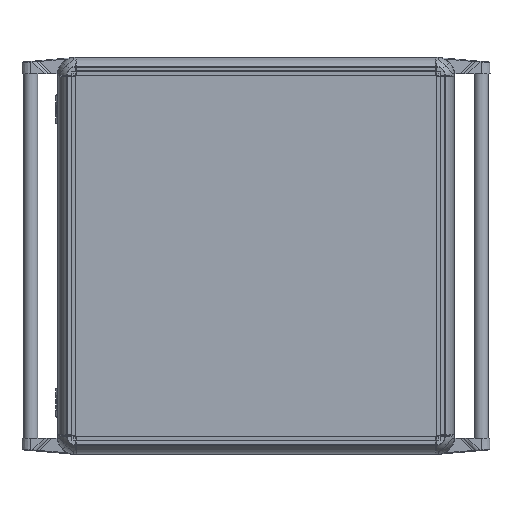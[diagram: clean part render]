
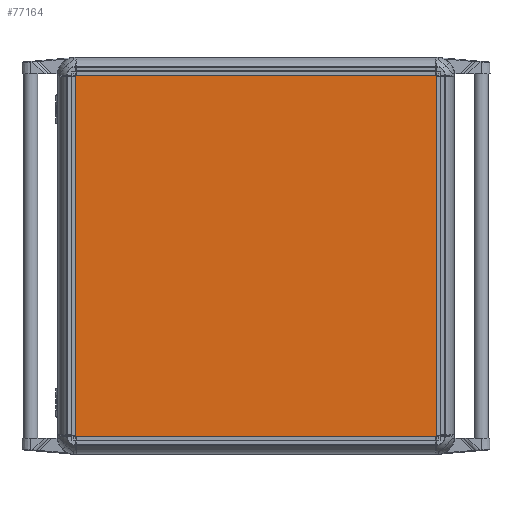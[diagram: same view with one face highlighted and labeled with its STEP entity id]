
A CAD part, top view. The second image highlights one B-rep face of the part: STEP entity #77164.
In plain terms, the highlighted planar face has unit normal (0, 0, 1).
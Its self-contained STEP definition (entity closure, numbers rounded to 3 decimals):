
#11866 = DIRECTION ( 'NONE',  ( 1., 0., 0. ) ) ;
#16171 = ORIENTED_EDGE ( 'NONE', *, *, #114428, .T. ) ;
#19561 = EDGE_CURVE ( 'NONE', #68305, #126725, #156481, .T. ) ;
#21190 = DIRECTION ( 'NONE',  ( 1., 0., 0. ) ) ;
#24737 = VECTOR ( 'NONE', #209866, 1000. ) ;
#28158 = PLANE ( 'NONE',  #84021 ) ;
#58288 = CARTESIAN_POINT ( 'NONE',  ( -250., -250., 2. ) ) ;
#61955 = DIRECTION ( 'NONE',  ( 0., -1., 0. ) ) ;
#68305 = VERTEX_POINT ( 'NONE', #71498 ) ;
#68669 = ORIENTED_EDGE ( 'NONE', *, *, #91710, .T. ) ;
#69515 = CARTESIAN_POINT ( 'NONE',  ( 250., 250., 2. ) ) ;
#71498 = CARTESIAN_POINT ( 'NONE',  ( 250., -250., 2. ) ) ;
#71506 = LINE ( 'NONE', #73769, #85580 ) ;
#73769 = CARTESIAN_POINT ( 'NONE',  ( -250., 250., 2. ) ) ;
#77164 = ADVANCED_FACE ( 'NONE', ( #186918 ), #28158, .T. ) ;
#80711 = CARTESIAN_POINT ( 'NONE',  ( -250., 250., 2. ) ) ;
#84021 = AXIS2_PLACEMENT_3D ( 'NONE', #99863, #170644, #11866 ) ;
#85580 = VECTOR ( 'NONE', #93369, 1000. ) ;
#89822 = VECTOR ( 'NONE', #21190, 1000. ) ;
#91710 = EDGE_CURVE ( 'NONE', #191028, #68305, #194196, .T. ) ;
#92107 = CARTESIAN_POINT ( 'NONE',  ( 250., 250., 2. ) ) ;
#93369 = DIRECTION ( 'NONE',  ( -1., 0., 0. ) ) ;
#95434 = CARTESIAN_POINT ( 'NONE',  ( -250., 250., 2. ) ) ;
#99863 = CARTESIAN_POINT ( 'NONE',  ( 0., 0., 2. ) ) ;
#114428 = EDGE_CURVE ( 'NONE', #126725, #126555, #71506, .T. ) ;
#126555 = VERTEX_POINT ( 'NONE', #80711 ) ;
#126725 = VERTEX_POINT ( 'NONE', #92107 ) ;
#132973 = CARTESIAN_POINT ( 'NONE',  ( -250., -250., 2. ) ) ;
#154987 = VECTOR ( 'NONE', #61955, 1000. ) ;
#156481 = LINE ( 'NONE', #69515, #24737 ) ;
#162731 = EDGE_CURVE ( 'NONE', #126555, #191028, #199933, .T. ) ;
#170644 = DIRECTION ( 'NONE',  ( 0., 0., 1. ) ) ;
#186918 = FACE_OUTER_BOUND ( 'NONE', #221193, .T. ) ;
#191028 = VERTEX_POINT ( 'NONE', #132973 ) ;
#194196 = LINE ( 'NONE', #58288, #89822 ) ;
#199933 = LINE ( 'NONE', #95434, #154987 ) ;
#209540 = ORIENTED_EDGE ( 'NONE', *, *, #162731, .T. ) ;
#209866 = DIRECTION ( 'NONE',  ( 0., 1., 0. ) ) ;
#215831 = ORIENTED_EDGE ( 'NONE', *, *, #19561, .T. ) ;
#221193 = EDGE_LOOP ( 'NONE', ( #215831, #16171, #209540, #68669 ) ) ;
